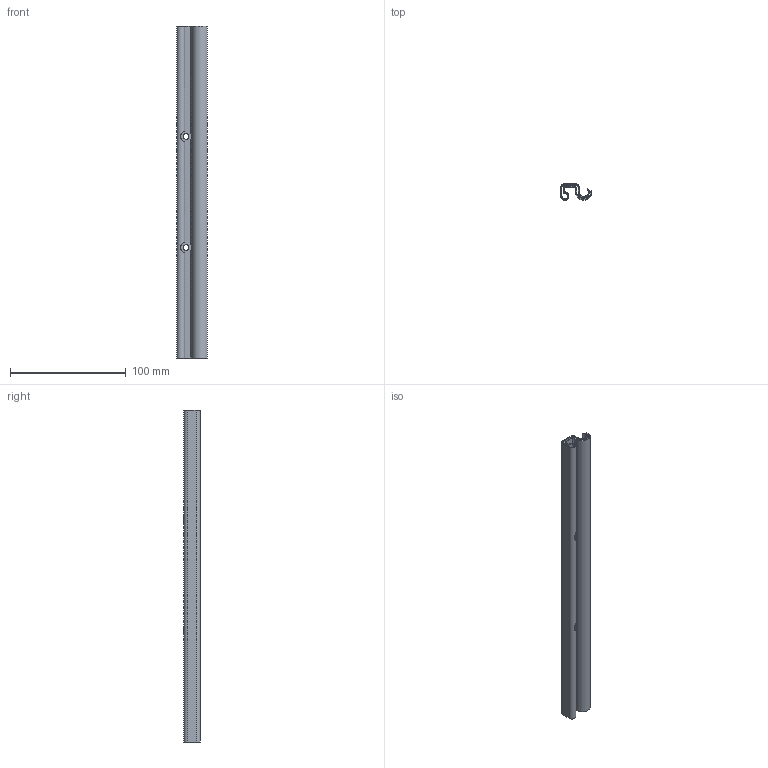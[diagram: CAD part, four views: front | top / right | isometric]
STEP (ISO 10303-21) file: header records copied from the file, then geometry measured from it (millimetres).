
FILE_DESCRIPTION(/* description */ (''),/* implementation_level */ '2;1');
FILE_NAME(/* name */ 'H:\3D_KONSTRUKCE\ROLETA+CHLEBNIK\ROLETA_RENDER\roleta_280x50mm_holder_endpart.stp',/* time_stamp */ '2016-01-21T10:32:05+01:00',/* author */ ('uidn2323'),/* organization */ (''),/* preprocessor_version */ 'ST-DEVELOPER v15.6',/* originating_system */ 'Autodesk Inventor 2015',/* authorisation */ '');
FILE_SCHEMA (('AUTOMOTIVE_DESIGN { 1 0 10303 214 3 1 1 }'));
Length unit declared in the file: millimetre
Products named in the file (1): roletka_1kus_pro_uchy_newt
Bounding box: 26.11 x 13.92 x 287 mm (x, y, z)
Volume: 23277.9 mm3; surface area: 58652.6 mm2
Topology: 1 solids, 1 shells, 38 faces, 106 edges, 72 vertices
Faces by surface type: cylinder 20, plane 18
Full cylindrical faces by diameter (mm): 5 x4
Entity records: 1510 total; most frequent: CARTESIAN_POINT 467, DIRECTION 208, ORIENTED_EDGE 204, EDGE_CURVE 102, AXIS2_PLACEMENT_3D 73, VERTEX_POINT 72, LINE 62, VECTOR 62
